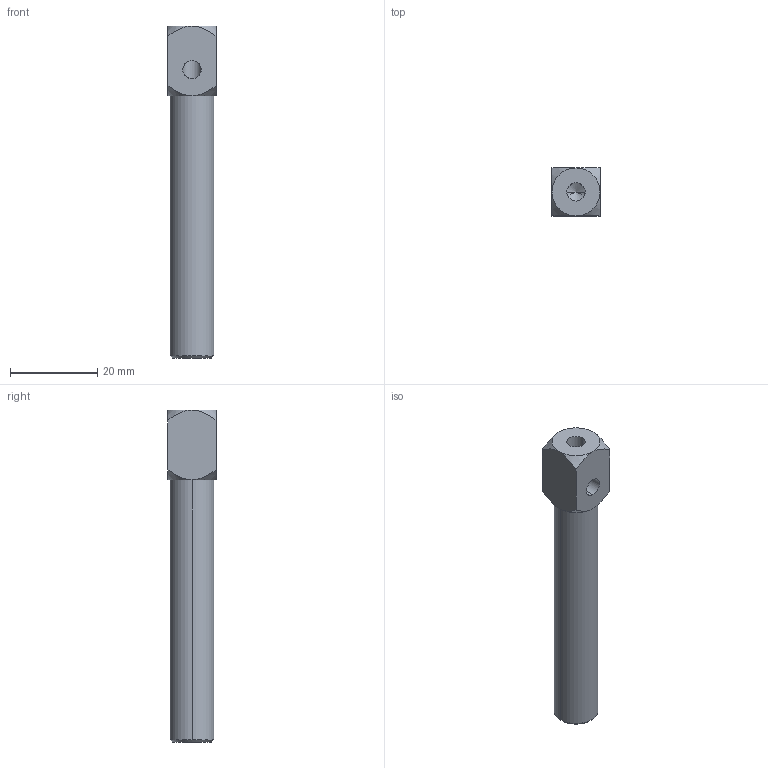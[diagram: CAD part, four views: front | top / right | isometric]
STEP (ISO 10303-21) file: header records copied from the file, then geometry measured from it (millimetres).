
FILE_DESCRIPTION (( 'STEP AP214' ), '1' );
FILE_NAME ('SVE-M51060.STEP', '2023-01-29T03:52:06', ( 'Windows User' ), ( 'P R C' ), 'SwSTEP 2.0', 'SolidWorks 2019', '' );
FILE_SCHEMA (( 'AUTOMOTIVE_DESIGN' ));
Length unit declared in the file: millimetre
Products named in the file (1): SVE-M51060
Bounding box: 11 x 11 x 76 mm (x, y, z)
Volume: 4838.8 mm3; surface area: 3973.1 mm2
Topology: 1 solids, 1 shells, 34 faces, 78 edges, 44 vertices
Faces by surface type: cone 16, cylinder 11, plane 7
Entity records: 1102 total; most frequent: CARTESIAN_POINT 347, DIRECTION 152, ORIENTED_EDGE 148, EDGE_CURVE 74, AXIS2_PLACEMENT_3D 65, VERTEX_POINT 44, EDGE_LOOP 38, FACE_OUTER_BOUND 34
